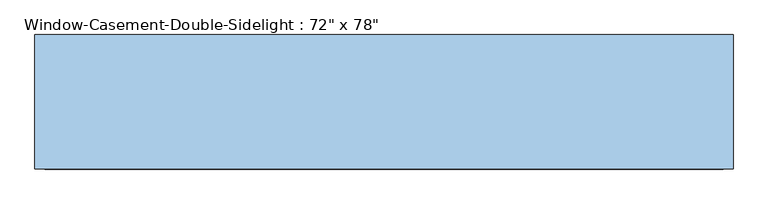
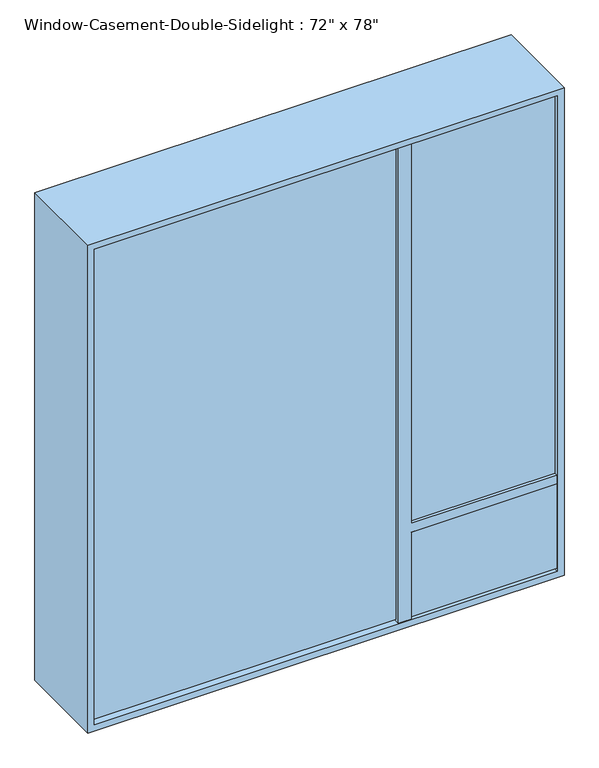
"""IFC4 building model written with IfcOpenShell, lengths in millimetres: window geometry."""

from ifc_helpers import new_model, si_unit, frame, origin, place, context, project, spatial, polyline, outline, extrude, faceted_brep, source, transform, mapped, element, save


def window_1334fc74(model_context):
    return source(origin(), model_context, "Body", "SolidModel", [
        faceted_brep([(-889.0, -134.9375, 2870.2), (279.4, -134.9375, 2870.2), (279.4, -173.0375, 2870.2), (330.2, -173.0375, 2870.2), (330.2, -134.9375, 2870.2), (889.0, -134.9375, 2870.2), (889.0, -176.2125, 2870.2), (-889.0, -176.2125, 2870.2), (-878.8796875, -84.1375, 2860.0796875), (279.4, -84.1375, 2860.0796875), (279.4, -134.9375, 2860.0796875), (-878.8796875, -134.9375, 2860.0796875), (878.8796875, -134.9375, 2860.0796875), (340.3203125, -134.9375, 2860.0796875), (340.3203125, -84.1375, 2860.0796875), (878.8796875, -84.1375, 2860.0796875), (-889.0, 176.2125, 2870.2), (889.0, 176.2125, 2870.2), (889.0, -84.1375, 2870.2), (-889.0, -84.1375, 2870.2), (-914.4, -176.2125, 2895.6), (914.4, -176.2125, 2895.6), (914.4, 176.2125, 2895.6), (-914.4, 176.2125, 2895.6), (889.0, -134.9375, 1328.4001563), (889.0, -173.0375, 1328.4001563), (889.0, -173.0375, 1292.8798438), (889.0, -134.9375, 1292.8798438), (889.0, -134.9375, 939.8), (889.0, -176.2125, 939.8), (878.8796875, -84.1375, 1328.4001563), (878.8796875, -134.9375, 1328.4001563), (878.8796875, -134.9375, 949.9203125), (878.8796875, -134.9375, 1292.8798438), (878.8796875, -84.1375, 1292.8798438), (878.8796875, -84.1375, 949.9203125), (889.0, 176.2125, 939.8), (889.0, -84.1375, 939.8), (914.4, -176.2125, 914.4), (914.4, 176.2125, 914.4), (330.2, -134.9375, 939.8), (330.2, -173.0375, 939.8), (279.4, -173.0375, 939.8), (279.4, -134.9375, 939.8), (-889.0, -134.9375, 939.8), (-889.0, -176.2125, 939.8), (340.3203125, -84.1375, 949.9203125), (340.3203125, -134.9375, 949.9203125), (-878.8796875, -134.9375, 949.9203125), (279.4, -134.9375, 949.9203125), (279.4, -84.1375, 949.9203125), (-878.8796875, -84.1375, 949.9203125), (-889.0, 176.2125, 939.8), (-889.0, -84.1375, 939.8), (-914.4, -176.2125, 914.4), (-914.4, 176.2125, 914.4), (330.2, -134.9375, 1328.4001563), (340.3203125, -134.9375, 1328.4001563), (340.3203125, -134.9375, 1292.8798438), (330.2, -134.9375, 1292.8798438), (340.3203125, -84.1375, 1328.4001563), (340.3203125, -84.1375, 1292.8798438), (330.2, -173.0375, 1292.8798438), (330.2, -173.0375, 1328.4001563)], [[[0, 1, 2, 3, 4, 5, 6, 7]], [[8, 9, 10, 11]], [[12, 13, 14, 15]], [[16, 17, 18, 19]], [[20, 21, 22, 23]], [[5, 24, 25, 26, 27, 28, 29, 6]], [[15, 30, 31, 12]], [[32, 33, 34, 35]], [[17, 36, 37, 18]], [[21, 38, 39, 22]], [[28, 40, 41, 42, 43, 44, 45, 29]], [[35, 46, 47, 32]], [[48, 49, 50, 51]], [[36, 52, 53, 37]], [[38, 54, 55, 39]], [[7, 45, 44, 0]], [[12, 31, 24, 5, 4, 56, 57, 13]], [[44, 43, 49, 48, 11, 10, 1, 0]], [[47, 58, 59, 40, 28, 27, 33, 32]], [[11, 48, 51, 8]], [[19, 18, 37, 53], [15, 14, 60, 30], [35, 34, 61, 46], [51, 50, 9, 8]], [[19, 53, 52, 16]], [[22, 39, 55, 23], [16, 52, 36, 17]], [[23, 55, 54, 20]], [[20, 54, 38, 21], [6, 29, 45, 7]], [[42, 41, 62, 26, 25, 63, 3, 2]], [[2, 1, 10, 9, 50, 49, 43, 42]], [[13, 57, 60, 14]], [[46, 61, 58, 47]], [[40, 59, 62, 41]], [[3, 63, 56, 4]], [[62, 59, 58, 61, 34, 33, 27, 26]], [[25, 24, 31, 30, 60, 57, 56, 63]]]),
        extrude(outline(polyline([(889.0, -147.6375), (330.2, -147.6375), (330.2, -141.2875), (889.0, -141.2875), (889.0, -147.6375)])), frame((0.0, 0.0, 1328.4001563), z_axis=(0.0, 0.0, 1.0), x_axis=(1.0, 0.0, 0.0)), (0.0, 0.0, 1.0), 1541.7998438),
        extrude(outline(polyline([(889.0, -160.3375), (330.2, -160.3375), (330.2, -153.9875), (889.0, -153.9875), (889.0, -160.3375)])), frame((0.0, 0.0, 1328.4001563), z_axis=(0.0, 0.0, 1.0), x_axis=(1.0, 0.0, 0.0)), (0.0, 0.0, 1.0), 1541.7998438),
        extrude(outline(polyline([(279.4, -160.3375), (-889.0, -160.3375), (-889.0, -153.9875), (279.4, -153.9875), (279.4, -160.3375)])), frame((0.0, 0.0, 949.9203125), z_axis=(0.0, 0.0, 1.0), x_axis=(1.0, 0.0, 0.0)), (0.0, 0.0, 1.0), 1920.2796875),
        extrude(outline(polyline([(279.4, -147.6375), (-889.0, -147.6375), (-889.0, -141.2875), (279.4, -141.2875), (279.4, -147.6375)])), frame((0.0, 0.0, 949.9203125), z_axis=(0.0, 0.0, 1.0), x_axis=(1.0, 0.0, 0.0)), (0.0, 0.0, 1.0), 1920.2796875),
        extrude(outline(polyline([(889.0, -160.3375), (889.0, -173.0375), (330.2, -173.0375), (330.2, -160.3375), (889.0, -160.3375)])), frame((0.0, 0.0, 949.9203125), z_axis=(0.0, 0.0, 1.0), x_axis=(1.0, 0.0, 0.0)), (0.0, 0.0, 1.0), 342.9595312),
        extrude(outline(polyline([(889.0, -147.6375), (330.2, -147.6375), (330.2, -141.2875), (889.0, -141.2875), (889.0, -147.6375)])), frame((0.0, 0.0, 949.9203125), z_axis=(0.0, 0.0, 1.0), x_axis=(1.0, 0.0, 0.0)), (0.0, 0.0, 1.0), 342.9595312),
    ])


if __name__ == "__main__":
    model = new_model("IFC4")
    model_context = context("Model", 3, world=origin())
    ifc_project = project(units=[si_unit("LENGTHUNIT", "METRE", prefix="MILLI")], contexts=[model_context])
    site = spatial("IfcSite", under=ifc_project)
    building = spatial("IfcBuilding", under=site)
    placement = place(None, origin())
    window_shape = window_1334fc74(model_context)
    element("IfcWindow", 1, ObjectType="Window-Casement-Double-Sidelight : 72\" x 78\"", at=placement, inside=building, context=model_context, shape_type="MappedRepresentation", body=[
        mapped(window_shape, transform((0.0, 0.0, 0.0), x_axis=(1.0, 0.0, 0.0), y_axis=(0.0, 1.0, 0.0), z_axis=(0.0, 0.0, 1.0))),
    ])
    save(model, "model.ifc")
